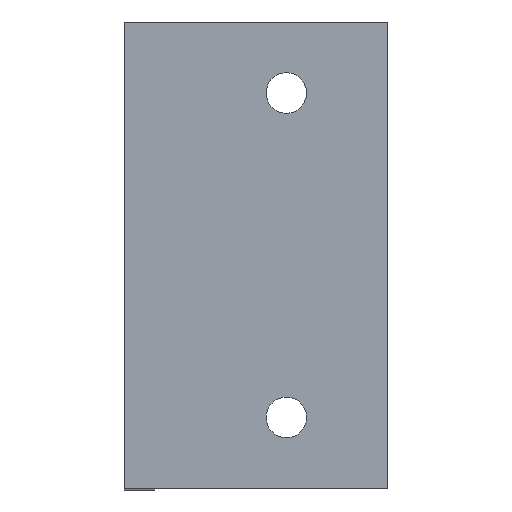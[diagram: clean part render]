
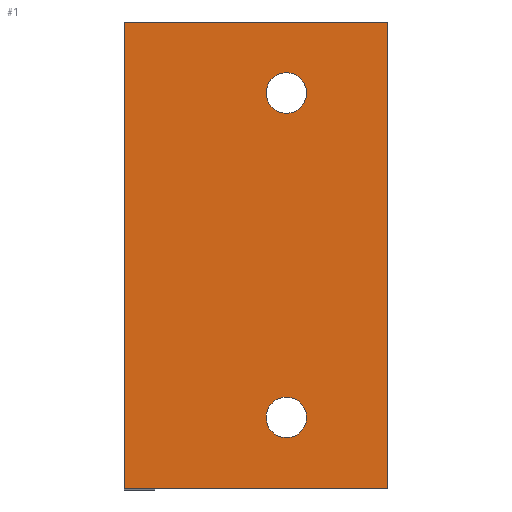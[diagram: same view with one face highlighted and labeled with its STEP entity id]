
A CAD part, top view. The second image highlights one B-rep face of the part: STEP entity #1.
In plain terms, the highlighted planar face has unit normal (0, 0, 1).
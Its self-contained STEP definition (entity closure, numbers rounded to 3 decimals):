
#1 = ADVANCED_FACE ( 'NONE', ( #139, #12, #29 ), #328, .T. ) ;
#9 = EDGE_LOOP ( 'NONE', ( #525, #510 ) ) ;
#12 = FACE_BOUND ( 'NONE', #55, .T. ) ;
#14 = CIRCLE ( 'NONE', #250, 2. ) ;
#20 = VECTOR ( 'NONE', #388, 1000. ) ;
#29 = FACE_OUTER_BOUND ( 'NONE', #157, .T. ) ;
#30 = CIRCLE ( 'NONE', #210, 2. ) ;
#44 = LINE ( 'NONE', #389, #20 ) ;
#46 = VECTOR ( 'NONE', #390, 1000. ) ;
#52 = VECTOR ( 'NONE', #314, 1000. ) ;
#55 = EDGE_LOOP ( 'NONE', ( #526, #554 ) ) ;
#67 = CIRCLE ( 'NONE', #203, 2. ) ;
#88 = LINE ( 'NONE', #456, #52 ) ;
#110 = LINE ( 'NONE', #391, #46 ) ;
#114 = CIRCLE ( 'NONE', #201, 2. ) ;
#120 = LINE ( 'NONE', #397, #126 ) ;
#126 = VECTOR ( 'NONE', #367, 1000. ) ;
#139 = FACE_BOUND ( 'NONE', #9, .T. ) ;
#157 = EDGE_LOOP ( 'NONE', ( #551, #530, #558, #564 ) ) ;
#174 = EDGE_CURVE ( 'NONE', #301, #349, #14, .T. ) ;
#183 = EDGE_CURVE ( 'NONE', #286, #296, #120, .T. ) ;
#184 = EDGE_CURVE ( 'NONE', #286, #276, #88, .T. ) ;
#188 = EDGE_CURVE ( 'NONE', #272, #329, #114, .T. ) ;
#190 = AXIS2_PLACEMENT_3D ( 'NONE', #432, #298, #360 ) ;
#201 = AXIS2_PLACEMENT_3D ( 'NONE', #361, #365, #413 ) ;
#203 = AXIS2_PLACEMENT_3D ( 'NONE', #346, #427, #430 ) ;
#210 = AXIS2_PLACEMENT_3D ( 'NONE', #377, #369, #368 ) ;
#229 = EDGE_CURVE ( 'NONE', #349, #301, #67, .T. ) ;
#238 = EDGE_CURVE ( 'NONE', #296, #310, #110, .T. ) ;
#239 = EDGE_CURVE ( 'NONE', #276, #310, #44, .T. ) ;
#248 = EDGE_CURVE ( 'NONE', #329, #272, #30, .T. ) ;
#250 = AXIS2_PLACEMENT_3D ( 'NONE', #409, #429, #418 ) ;
#272 = VERTEX_POINT ( 'NONE', #370 ) ;
#276 = VERTEX_POINT ( 'NONE', #450 ) ;
#286 = VERTEX_POINT ( 'NONE', #452 ) ;
#296 = VERTEX_POINT ( 'NONE', #463 ) ;
#298 = DIRECTION ( 'NONE',  ( 0., 0., 1. ) ) ;
#301 = VERTEX_POINT ( 'NONE', #466 ) ;
#310 = VERTEX_POINT ( 'NONE', #473 ) ;
#314 = DIRECTION ( 'NONE',  ( -1., 0., 0. ) ) ;
#328 = PLANE ( 'NONE',  #190 ) ;
#329 = VERTEX_POINT ( 'NONE', #476 ) ;
#346 = CARTESIAN_POINT ( 'NONE',  ( 0., 0., 0. ) ) ;
#349 = VERTEX_POINT ( 'NONE', #477 ) ;
#360 = DIRECTION ( 'NONE',  ( 0., -1., 0. ) ) ;
#361 = CARTESIAN_POINT ( 'NONE',  ( 0., 32., 0. ) ) ;
#365 = DIRECTION ( 'NONE',  ( 0., 0., -1. ) ) ;
#367 = DIRECTION ( 'NONE',  ( 0., -1., 0. ) ) ;
#368 = DIRECTION ( 'NONE',  ( 0., 1., 0. ) ) ;
#369 = DIRECTION ( 'NONE',  ( 0., 0., -1. ) ) ;
#370 = CARTESIAN_POINT ( 'NONE',  ( 0., 34., 0. ) ) ;
#377 = CARTESIAN_POINT ( 'NONE',  ( 0., 32., 0. ) ) ;
#388 = DIRECTION ( 'NONE',  ( 0., -1., 0. ) ) ;
#389 = CARTESIAN_POINT ( 'NONE',  ( -16., 39., 0. ) ) ;
#390 = DIRECTION ( 'NONE',  ( -1., 0., 0. ) ) ;
#391 = CARTESIAN_POINT ( 'NONE',  ( -16., -7., 0. ) ) ;
#397 = CARTESIAN_POINT ( 'NONE',  ( 10., 39., 0. ) ) ;
#409 = CARTESIAN_POINT ( 'NONE',  ( 0., 0., 0. ) ) ;
#413 = DIRECTION ( 'NONE',  ( 0., 1., 0. ) ) ;
#418 = DIRECTION ( 'NONE',  ( 0., 1., 0. ) ) ;
#427 = DIRECTION ( 'NONE',  ( 0., 0., -1. ) ) ;
#429 = DIRECTION ( 'NONE',  ( 0., 0., -1. ) ) ;
#430 = DIRECTION ( 'NONE',  ( 0., 1., 0. ) ) ;
#432 = CARTESIAN_POINT ( 'NONE',  ( -16., 39., 0. ) ) ;
#450 = CARTESIAN_POINT ( 'NONE',  ( -16., 39., 0. ) ) ;
#452 = CARTESIAN_POINT ( 'NONE',  ( 10., 39., 0. ) ) ;
#456 = CARTESIAN_POINT ( 'NONE',  ( -16., 39., 0. ) ) ;
#463 = CARTESIAN_POINT ( 'NONE',  ( 10., -7., 0. ) ) ;
#466 = CARTESIAN_POINT ( 'NONE',  ( 0., 2., 0. ) ) ;
#473 = CARTESIAN_POINT ( 'NONE',  ( -16., -7., 0. ) ) ;
#476 = CARTESIAN_POINT ( 'NONE',  ( 0., 30., 0. ) ) ;
#477 = CARTESIAN_POINT ( 'NONE',  ( 0., -2., 0. ) ) ;
#510 = ORIENTED_EDGE ( 'NONE', *, *, #248, .T. ) ;
#525 = ORIENTED_EDGE ( 'NONE', *, *, #188, .T. ) ;
#526 = ORIENTED_EDGE ( 'NONE', *, *, #174, .T. ) ;
#530 = ORIENTED_EDGE ( 'NONE', *, *, #183, .F. ) ;
#551 = ORIENTED_EDGE ( 'NONE', *, *, #238, .F. ) ;
#554 = ORIENTED_EDGE ( 'NONE', *, *, #229, .T. ) ;
#558 = ORIENTED_EDGE ( 'NONE', *, *, #184, .T. ) ;
#564 = ORIENTED_EDGE ( 'NONE', *, *, #239, .T. ) ;
